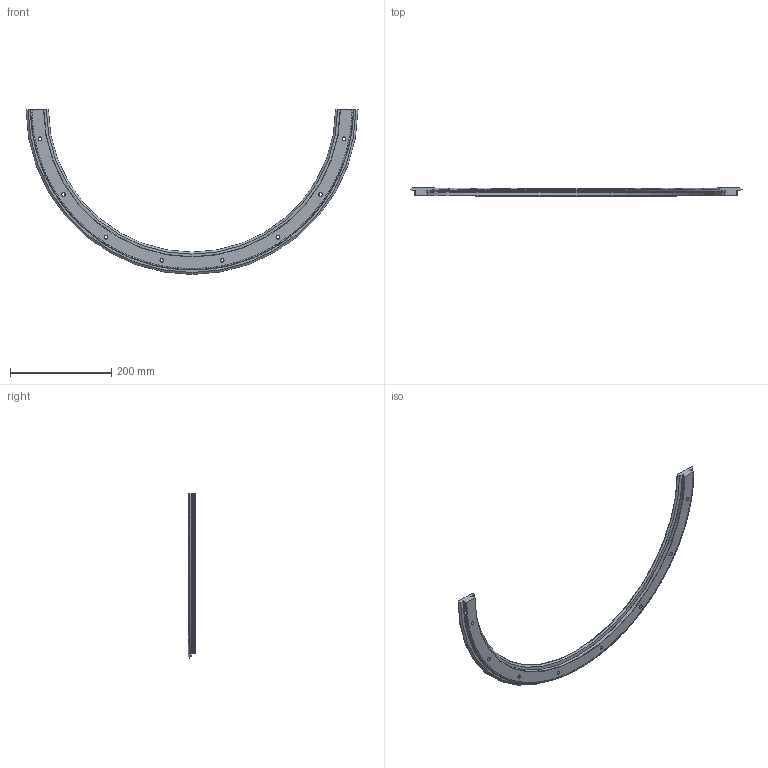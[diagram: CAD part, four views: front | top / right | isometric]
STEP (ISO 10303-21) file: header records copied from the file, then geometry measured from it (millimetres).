
FILE_DESCRIPTION( ( 'STEP AP203' ), '1' );
FILE_NAME( 'p:/temp/worker_35/temp/exporttempdir_1816_164_4TPdB/format_0/R44 612 R180 P.stp', '2021-07-19T05:41:22', ( 'License CC BY-ND 4.0' ), ( 'CADENAS' ), ' ', 'PARTsolutions', ' ' );
FILE_SCHEMA( ( 'CONFIG_CONTROL_DESIGN' ) );
Length unit declared in the file: millimetre
Products named in the file (1): _R44 612 R180 P
Bounding box: 656.18 x 15.5 x 326.09 mm (x, y, z)
Volume: 441372.3 mm3; surface area: 127069.5 mm2
Topology: 1 solids, 1 shells, 1950 faces, 5180 edges, 3240 vertices
Faces by surface type: plane 1282, cylinder 336, cone 330, torus 2
Full cylindrical faces by diameter (mm): 6.8 x8, 11 x8
Entity records: 60622 total; most frequent: CARTESIAN_POINT 12304, ORIENTED_EDGE 10312, DIRECTION 10048, EDGE_CURVE 5156, AXIS2_PLACEMENT_3D 3589, VERTEX_POINT 3241, LINE 2870, VECTOR 2870
